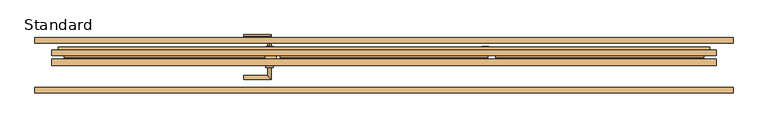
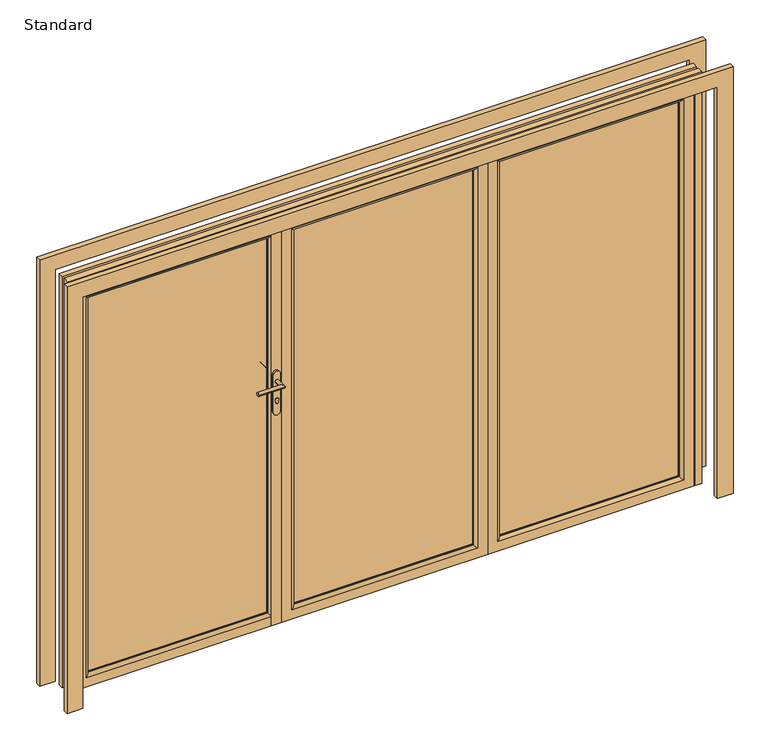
"""IFC4 building model written with IfcOpenShell, lengths in millimetres: door geometry, SMARTS_Visofold1000 : Standard."""

from ifc_helpers import new_model, si_unit, point, frame, frame_2d, origin, origin_with_axes, place, context, project, spatial, polyline, circle_curve, ellipse_curve, trimmed, segment, composite_curve, outline, extrude, faceted_brep, source, transform, mapped, element, save
from ifc_brep_helpers import plane_surface, cylinder_surface, advanced_brep


def standard_c6a34117(model_context):
    return source(origin(), model_context, "Body", "SolidModel", [
        extrude(outline(composite_curve([segment(polyline([(1228.0996413, 440.6666667), (1040.0996413, 440.6666667)]), True, "CONTINUOUS"), segment(trimmed(circle_curve(frame_2d((1040.0996413, 456.6666667)), 16.0), [point((1040.0996413, 440.6666667))], [point((1040.0996413, 472.6666667))], False, "CARTESIAN"), True, "CONTINUOUS"), segment(polyline([(1040.0996413, 472.6666667), (1228.0996413, 472.6666667)]), True, "CONTINUOUS"), segment(trimmed(circle_curve(frame_2d((1228.0996413, 456.6666667)), 16.0), [point((1228.0996413, 472.6666667))], [point((1228.0996413, 440.6666667))], False, "CARTESIAN"), True, "CONTINUOUS")], self_intersect=False)), frame((0.0, 75.0, 0.0), z_axis=(0.0, 1.0, 0.0), x_axis=(0.0, 0.0, 1.0)), (0.0, 0.0, 1.0), 10.0),
        extrude(outline(polyline([(45.0, 441.6666667), (1955.0, 441.6666667), (1955.0, -441.6666667), (45.0, -441.6666667), (45.0, 441.6666667)]), holes=[polyline([(1939.5, 426.1666667), (60.5, 426.1666667), (60.5, -426.1666667), (1939.5, -426.1666667), (1939.5, 426.1666667)])]), frame((0.0, 17.4, 0.0), z_axis=(0.0, 1.0, 0.0), x_axis=(0.0, 0.0, 1.0)), (0.0, 0.0, 1.0), 35.0),
        faceted_brep([(486.6666667, 74.4, 0.0), (486.6666667, 74.4, 2000.0), (486.6666667, 52.4, 2000.0), (486.6666667, 52.4, 0.0), (426.1666667, 52.4, 60.5), (426.1666667, 52.4, 1939.5), (426.1666667, 74.4, 1939.5), (426.1666667, 74.4, 60.5), (-486.6666667, 74.4, 2000.0), (-486.6666667, 52.4, 2000.0), (-426.1666667, 52.4, 1939.5), (-426.1666667, 74.4, 1939.5), (-486.6666667, 74.4, 0.0), (-486.6666667, 52.4, 0.0), (-426.1666667, 52.4, 60.5), (-426.1666667, 74.4, 60.5), (468.7975186, 34.8, 17.8691481), (468.7975186, 34.8, 1982.1308519), (-468.7975186, 34.8, 1982.1308519), (-468.7975186, 34.8, 17.8691481), (441.6666667, 34.8, 1955.0), (441.6666667, 34.8, 45.0), (-441.6666667, 34.8, 45.0), (-441.6666667, 34.8, 1955.0), (468.7975186, 52.4, 17.8691481), (468.7975186, 52.4, 1982.1308519), (441.6666667, 52.4, 1955.0), (441.6666667, 52.4, 45.0), (-468.7975186, 52.4, 1982.1308519), (-441.6666667, 52.4, 1955.0), (-468.7975186, 52.4, 17.8691481), (-441.6666667, 52.4, 45.0)], [[[0, 1, 2, 3]], [[4, 5, 6, 7]], [[1, 8, 9, 2]], [[5, 10, 11, 6]], [[8, 12, 13, 9]], [[10, 14, 15, 11]], [[12, 0, 3, 13]], [[1, 0, 12, 8], [7, 6, 11, 15]], [[14, 4, 7, 15]], [[16, 17, 18, 19], [20, 21, 22, 23]], [[24, 25, 17, 16]], [[21, 20, 26, 27]], [[25, 28, 18, 17]], [[20, 23, 29, 26]], [[28, 30, 19, 18]], [[23, 22, 31, 29]], [[30, 24, 16, 19]], [[3, 2, 9, 13], [25, 24, 30, 28]], [[27, 26, 29, 31], [5, 4, 14, 10]], [[22, 21, 27, 31]]]),
        advanced_brep(
        [(426.1666667, 13.3, 60.5), (426.1666667, 13.3, 1939.5), (426.1666667, 17.4, 1939.5), (426.1666667, 17.4, 60.5), (486.6666667, 17.4, 0.0), (486.6666667, 17.4, 2000.0), (486.6666667, 0.0, 2000.0), (486.6666667, 0.0, 0.0), (-426.1666667, 13.3, 1939.5), (-426.1666667, 17.4, 1939.5), (-486.6666667, 17.4, 2000.0), (-486.6666667, 0.0, 2000.0), (-426.1666667, 13.3, 60.5), (-426.1666667, 17.4, 60.5), (-486.6666667, 17.4, 0.0), (-486.6666667, 0.0, 0.0), (439.4666667, 0.0, 1952.8), (439.4666667, 0.0, 47.2), (-439.4666667, 0.0, 47.2), (-439.4666667, 0.0, 1952.8), (468.7975186, 34.8, 17.8691481), (468.7975186, 34.8, 1982.1308519), (468.7975186, 17.4, 1982.1308519), (468.7975186, 17.4, 17.8691481), (-468.7975186, 34.8, 1982.1308519), (-468.7975186, 17.4, 1982.1308519), (-468.7975186, 34.8, 17.8691481), (-468.7975186, 17.4, 17.8691481), (441.6666667, 17.4, 45.0), (441.6666667, 17.4, 1955.0), (441.6666667, 34.8, 1955.0), (441.6666667, 34.8, 45.0), (-441.6666667, 17.4, 1955.0), (-441.6666667, 34.8, 1955.0), (-441.6666667, 17.4, 45.0), (-441.6666667, 34.8, 45.0)],
        [
            (0, 1),
            (1, 2),
            (2, 3),
            (3, 0),
            (4, 5),
            (5, 6),
            (6, 7),
            (7, 4),
            (1, 8),
            (8, 9),
            (9, 2),
            (5, 10),
            (10, 11),
            (11, 6),
            (8, 12),
            (12, 13),
            (13, 9),
            (10, 14),
            (14, 15),
            (15, 11),
            (12, 0),
            (3, 13),
            (15, 7),
            (16, 17),
            (17, 18),
            (18, 19),
            (19, 16),
            (14, 4),
            (16, 1, ellipse_curve(frame((439.4666667, 13.3, 1952.8), z_axis=(0.707106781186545, 0.0, -0.7071067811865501), x_axis=(-0.7071067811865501, 0.0, -0.7071067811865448)), 18.8090404, 13.3)),
            (0, 17, ellipse_curve(frame((439.4666667, 13.3, 47.2), z_axis=(0.70710678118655, 0.0, 0.7071067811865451), x_axis=(0.7071067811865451, 0.0, -0.7071067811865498)), 18.8090404, 13.3)),
            (19, 8, ellipse_curve(frame((-439.4666667, 13.3, 1952.8), z_axis=(0.7071067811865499, 0.0, 0.707106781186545), x_axis=(0.7071067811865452, 0.0, -0.7071067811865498)), 18.8090404, 13.3)),
            (18, 12, ellipse_curve(frame((-439.4666667, 13.3, 47.2), z_axis=(-0.7071067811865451, 0.0, 0.7071067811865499), x_axis=(0.7071067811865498, 0.0, 0.7071067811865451)), 18.8090404, 13.3)),
            (20, 21),
            (21, 22),
            (22, 23),
            (23, 20),
            (21, 24),
            (24, 25),
            (25, 22),
            (24, 26),
            (26, 27),
            (27, 25),
            (27, 23),
            (26, 20),
            (28, 29),
            (29, 30),
            (30, 31),
            (31, 28),
            (29, 32),
            (32, 33),
            (33, 30),
            (32, 34),
            (34, 35),
            (35, 33),
            (34, 28),
            (31, 35),
        ],
        [
            plane_surface(frame((426.1666667, 17.4, 60.5), z_axis=(-1.0, 0.0, 0.0), x_axis=(0.0, 0.0, 1.0))),
            plane_surface(frame((486.6666667, 0.0, 0.0), z_axis=(1.0, 0.0, 0.0), x_axis=(0.0, 0.0, 1.0))),
            plane_surface(frame((426.1666667, 17.4, 1939.5), z_axis=(0.0, 0.0, -1.0), x_axis=(-1.0, 0.0, 0.0))),
            plane_surface(frame((486.6666667, 0.0, 2000.0), z_axis=(0.0, 0.0, 1.0), x_axis=(-1.0, 0.0, 0.0))),
            plane_surface(frame((-426.1666667, 17.4, 1939.5), z_axis=(1.0, 0.0, 0.0), x_axis=(0.0, 0.0, -1.0))),
            plane_surface(frame((-486.6666667, 0.0, 2000.0), z_axis=(-1.0, 0.0, 0.0), x_axis=(0.0, 0.0, -1.0))),
            plane_surface(frame((-426.1666667, 17.4, 60.5), z_axis=(0.0, 0.0, 1.0), x_axis=(1.0, 0.0, 0.0))),
            plane_surface(frame((-439.4666667, 0.0, 47.2), z_axis=(0.0, -1.0, 0.0), x_axis=(1.0, 0.0, 0.0))),
            plane_surface(frame((-486.6666667, 0.0, 0.0), z_axis=(0.0, 0.0, -1.0), x_axis=(1.0, 0.0, 0.0))),
            cylinder_surface(frame((439.4666667, 13.3, 0.0), z_axis=(0.0, 0.0, -1.0), x_axis=(0.0, 1.0, 0.0)), 13.3),
            cylinder_surface(frame((486.6666667, 13.3, 1952.8), z_axis=(1.0, 0.0, 0.0), x_axis=(0.0, 1.0, 0.0)), 13.3),
            cylinder_surface(frame((-439.4666667, 13.3, 2000.0), z_axis=(0.0, 0.0, 1.0), x_axis=(0.0, 1.0, 0.0)), 13.3),
            cylinder_surface(frame((-486.6666667, 13.3, 47.2), z_axis=(-1.0, 0.0, 0.0), x_axis=(0.0, 1.0, 0.0)), 13.3),
            plane_surface(frame((468.7975186, 17.4, 17.8691481), z_axis=(1.0, 0.0, 0.0), x_axis=(0.0, 0.0, 1.0))),
            plane_surface(frame((468.7975186, 17.4, 1982.1308519), z_axis=(0.0, 0.0, 1.0), x_axis=(-1.0, 0.0, 0.0))),
            plane_surface(frame((-468.7975186, 17.4, 1982.1308519), z_axis=(-1.0, 0.0, 0.0), x_axis=(0.0, 0.0, -1.0))),
            plane_surface(frame((-486.6666667, 17.4, 0.0), z_axis=(0.0, 1.0, 0.0), x_axis=(1.0, 0.0, 0.0))),
            plane_surface(frame((-468.7975186, 17.4, 17.8691481), z_axis=(0.0, 0.0, -1.0), x_axis=(1.0, 0.0, 0.0))),
            plane_surface(frame((441.6666667, 34.8, 45.0), z_axis=(-1.0, 0.0, 0.0), x_axis=(0.0, 0.0, 1.0))),
            plane_surface(frame((441.6666667, 34.8, 1955.0), z_axis=(0.0, 0.0, -1.0), x_axis=(-1.0, 0.0, 0.0))),
            plane_surface(frame((-441.6666667, 34.8, 1955.0), z_axis=(1.0, 0.0, 0.0), x_axis=(0.0, 0.0, -1.0))),
            plane_surface(frame((-441.6666667, 34.8, 45.0), z_axis=(0.0, 0.0, 1.0), x_axis=(1.0, 0.0, 0.0))),
            plane_surface(frame((-441.6666667, 17.4, 45.0), z_axis=(0.0, 1.0, 0.0), x_axis=(1.0, 0.0, 0.0))),
            plane_surface(frame((-468.7975186, 34.8, 17.8691481), z_axis=(0.0, 1.0, 0.0), x_axis=(1.0, 0.0, 0.0))),
        ],
        [
            (0, [[1, 2, 3, 4]]),
            (1, [[5, 6, 7, 8]]),
            (2, [[9, 10, 11, -2]]),
            (3, [[12, 13, 14, -6]]),
            (4, [[15, 16, 17, -10]]),
            (5, [[18, 19, 20, -13]]),
            (6, [[21, -4, 22, -16]]),
            (7, [[-7, -14, -20, 23], [24, 25, 26, 27]]),
            (8, [[28, -8, -23, -19]]),
            (9, [[-24, 29, -1, 30]]),
            (10, [[-27, 31, -9, -29]]),
            (11, [[-26, 32, -15, -31]]),
            (12, [[-25, -30, -21, -32]]),
            (13, [[33, 34, 35, 36]]),
            (14, [[37, 38, 39, -34]]),
            (15, [[40, 41, 42, -38]]),
            (16, [[-5, -28, -18, -12], [-35, -39, -42, 43]]),
            (17, [[44, -36, -43, -41]]),
            (18, [[45, 46, 47, 48]]),
            (19, [[49, 50, 51, -46]]),
            (20, [[52, 53, 54, -50]]),
            (21, [[55, -48, 56, -53]]),
            (22, [[-45, -55, -52, -49], [-3, -11, -17, -22]]),
            (23, [[-33, -44, -40, -37], [-47, -51, -54, -56]]),
        ],
    ),
        extrude(outline(polyline([(426.1666667, 50.1484783), (426.1666667, 21.4), (-426.1666667, 21.4), (-426.1666667, 50.1484783), (426.1666667, 50.1484783)])), frame((0.0, 0.0, 60.5), z_axis=(0.0, 0.0, 1.0), x_axis=(1.0, 0.0, 0.0)), (0.0, 0.0, 1.0), 1879.0),
        extrude(outline(polyline([(45.0, 531.6666667), (45.0, 1415.0), (1955.0, 1415.0), (1955.0, 531.6666667), (45.0, 531.6666667)]), holes=[polyline([(1939.5, 547.1666667), (1939.5, 1399.5), (60.5, 1399.5), (60.5, 547.1666667), (1939.5, 547.1666667)])]), frame((0.0, 17.4, 0.0), z_axis=(0.0, 1.0, 0.0), x_axis=(0.0, 0.0, 1.0)), (0.0, 0.0, 1.0), 35.0),
        faceted_brep([(486.6666667, 74.4, 0.0), (486.6666667, 52.4, 0.0), (486.6666667, 52.4, 2000.0), (486.6666667, 74.4, 2000.0), (547.1666667, 52.4, 60.5), (547.1666667, 74.4, 60.5), (547.1666667, 74.4, 1939.5), (547.1666667, 52.4, 1939.5), (1460.0, 74.4, 0.0), (1460.0, 52.4, 0.0), (1460.0, 52.4, 2000.0), (1460.0, 74.4, 2000.0), (1399.5, 74.4, 1939.5), (1399.5, 52.4, 1939.5), (1399.5, 74.4, 60.5), (1399.5, 52.4, 60.5), (504.5358147, 34.8, 17.8691481), (1442.1308519, 34.8, 17.8691481), (1442.1308519, 34.8, 1982.1308519), (504.5358147, 34.8, 1982.1308519), (531.6666667, 34.8, 1955.0), (1415.0, 34.8, 1955.0), (1415.0, 34.8, 45.0), (531.6666667, 34.8, 45.0), (504.5358147, 52.4, 17.8691481), (504.5358147, 52.4, 1982.1308519), (531.6666667, 52.4, 45.0), (531.6666667, 52.4, 1955.0), (1442.1308519, 52.4, 1982.1308519), (1415.0, 52.4, 1955.0), (1442.1308519, 52.4, 17.8691481), (1415.0, 52.4, 45.0)], [[[0, 1, 2, 3]], [[4, 5, 6, 7]], [[8, 9, 1, 0]], [[3, 2, 10, 11]], [[7, 6, 12, 13]], [[11, 10, 9, 8]], [[13, 12, 14, 15]], [[3, 11, 8, 0], [5, 14, 12, 6]], [[15, 14, 5, 4]], [[16, 17, 18, 19], [20, 21, 22, 23]], [[24, 16, 19, 25]], [[23, 26, 27, 20]], [[25, 19, 18, 28]], [[20, 27, 29, 21]], [[28, 18, 17, 30]], [[21, 29, 31, 22]], [[30, 17, 16, 24]], [[1, 9, 10, 2], [25, 28, 30, 24]], [[26, 31, 29, 27], [7, 13, 15, 4]], [[22, 31, 26, 23]]]),
        advanced_brep(
        [(547.1666667, 13.3, 60.5), (547.1666667, 17.4, 60.5), (547.1666667, 17.4, 1939.5), (547.1666667, 13.3, 1939.5), (486.6666667, 17.4, 0.0), (486.6666667, 0.0, 0.0), (486.6666667, 0.0, 2000.0), (486.6666667, 17.4, 2000.0), (1399.5, 17.4, 1939.5), (1399.5, 13.3, 1939.5), (1460.0, 0.0, 2000.0), (1460.0, 17.4, 2000.0), (1399.5, 17.4, 60.5), (1399.5, 13.3, 60.5), (1460.0, 0.0, 0.0), (1460.0, 17.4, 0.0), (533.8666667, 0.0, 1952.8), (1412.8, 0.0, 1952.8), (1412.8, 0.0, 47.2), (533.8666667, 0.0, 47.2), (504.5358147, 34.8, 17.8691481), (504.5358147, 17.4, 17.8691481), (504.5358147, 17.4, 1982.1308519), (504.5358147, 34.8, 1982.1308519), (1442.1308519, 17.4, 1982.1308519), (1442.1308519, 34.8, 1982.1308519), (1442.1308519, 17.4, 17.8691481), (1442.1308519, 34.8, 17.8691481), (531.6666667, 17.4, 45.0), (531.6666667, 34.8, 45.0), (531.6666667, 34.8, 1955.0), (531.6666667, 17.4, 1955.0), (1415.0, 34.8, 1955.0), (1415.0, 17.4, 1955.0), (1415.0, 34.8, 45.0), (1415.0, 17.4, 45.0)],
        [
            (0, 1),
            (1, 2),
            (2, 3),
            (3, 0),
            (4, 5),
            (5, 6),
            (6, 7),
            (7, 4),
            (2, 8),
            (8, 9),
            (9, 3),
            (6, 10),
            (10, 11),
            (11, 7),
            (8, 12),
            (12, 13),
            (13, 9),
            (10, 14),
            (14, 15),
            (15, 11),
            (12, 1),
            (0, 13),
            (5, 14),
            (16, 17),
            (17, 18),
            (18, 19),
            (19, 16),
            (4, 15),
            (19, 0, ellipse_curve(frame((533.8666667, 13.3, 47.2), z_axis=(-0.70710678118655, 0.0, 0.7071067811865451), x_axis=(-0.7071067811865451, 0.0, -0.7071067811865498)), 18.8090404, 13.3)),
            (3, 16, ellipse_curve(frame((533.8666667, 13.3, 1952.8), z_axis=(-0.707106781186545, 0.0, -0.7071067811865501), x_axis=(0.7071067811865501, 0.0, -0.7071067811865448)), 18.8090404, 13.3)),
            (9, 17, ellipse_curve(frame((1412.8, 13.3, 1952.8), z_axis=(-0.7071067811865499, 0.0, 0.707106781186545), x_axis=(-0.7071067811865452, 0.0, -0.7071067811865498)), 18.8090404, 13.3)),
            (13, 18, ellipse_curve(frame((1412.8, 13.3, 47.2), z_axis=(0.7071067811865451, 0.0, 0.7071067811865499), x_axis=(-0.7071067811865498, 0.0, 0.7071067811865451)), 18.8090404, 13.3)),
            (20, 21),
            (21, 22),
            (22, 23),
            (23, 20),
            (22, 24),
            (24, 25),
            (25, 23),
            (24, 26),
            (26, 27),
            (27, 25),
            (21, 26),
            (20, 27),
            (28, 29),
            (29, 30),
            (30, 31),
            (31, 28),
            (30, 32),
            (32, 33),
            (33, 31),
            (32, 34),
            (34, 35),
            (35, 33),
            (34, 29),
            (28, 35),
        ],
        [
            plane_surface(frame((547.1666667, 17.4, 60.5), z_axis=(1.0, 0.0, 0.0), x_axis=(0.0, 0.0, 1.0))),
            plane_surface(frame((486.6666667, 0.0, 0.0), z_axis=(-1.0, 0.0, 0.0), x_axis=(0.0, 0.0, 1.0))),
            plane_surface(frame((547.1666667, 17.4, 1939.5), z_axis=(0.0, 0.0, -1.0), x_axis=(1.0, 0.0, 0.0))),
            plane_surface(frame((486.6666667, 0.0, 2000.0), z_axis=(0.0, 0.0, 1.0), x_axis=(1.0, 0.0, 0.0))),
            plane_surface(frame((1399.5, 17.4, 1939.5), z_axis=(-1.0, 0.0, 0.0), x_axis=(0.0, 0.0, -1.0))),
            plane_surface(frame((1460.0, 0.0, 2000.0), z_axis=(1.0, 0.0, 0.0), x_axis=(0.0, 0.0, -1.0))),
            plane_surface(frame((1399.5, 17.4, 60.5), z_axis=(0.0, 0.0, 1.0), x_axis=(-1.0, 0.0, 0.0))),
            plane_surface(frame((1412.8, 0.0, 47.2), z_axis=(0.0, -1.0, 0.0), x_axis=(-1.0, 0.0, 0.0))),
            plane_surface(frame((1460.0, 0.0, 0.0), z_axis=(0.0, 0.0, -1.0), x_axis=(-1.0, 0.0, 0.0))),
            cylinder_surface(frame((533.8666667, 13.3, 0.0), z_axis=(0.0, 0.0, -1.0), x_axis=(0.0, 1.0, 0.0)), 13.3),
            cylinder_surface(frame((486.6666667, 13.3, 1952.8), z_axis=(-1.0, 0.0, 0.0), x_axis=(0.0, 1.0, 0.0)), 13.3),
            cylinder_surface(frame((1412.8, 13.3, 2000.0), z_axis=(0.0, 0.0, 1.0), x_axis=(0.0, 1.0, 0.0)), 13.3),
            cylinder_surface(frame((1460.0, 13.3, 47.2), z_axis=(1.0, 0.0, 0.0), x_axis=(0.0, 1.0, 0.0)), 13.3),
            plane_surface(frame((504.5358147, 17.4, 17.8691481), z_axis=(-1.0, 0.0, 0.0), x_axis=(0.0, 0.0, 1.0))),
            plane_surface(frame((504.5358147, 17.4, 1982.1308519), z_axis=(0.0, 0.0, 1.0), x_axis=(1.0, 0.0, 0.0))),
            plane_surface(frame((1442.1308519, 17.4, 1982.1308519), z_axis=(1.0, 0.0, 0.0), x_axis=(0.0, 0.0, -1.0))),
            plane_surface(frame((1460.0, 17.4, 0.0), z_axis=(0.0, 1.0, 0.0), x_axis=(-1.0, 0.0, 0.0))),
            plane_surface(frame((1442.1308519, 17.4, 17.8691481), z_axis=(0.0, 0.0, -1.0), x_axis=(-1.0, 0.0, 0.0))),
            plane_surface(frame((531.6666667, 34.8, 45.0), z_axis=(1.0, 0.0, 0.0), x_axis=(0.0, 0.0, 1.0))),
            plane_surface(frame((531.6666667, 34.8, 1955.0), z_axis=(0.0, 0.0, -1.0), x_axis=(1.0, 0.0, 0.0))),
            plane_surface(frame((1415.0, 34.8, 1955.0), z_axis=(-1.0, 0.0, 0.0), x_axis=(0.0, 0.0, -1.0))),
            plane_surface(frame((1415.0, 34.8, 45.0), z_axis=(0.0, 0.0, 1.0), x_axis=(-1.0, 0.0, 0.0))),
            plane_surface(frame((1415.0, 17.4, 45.0), z_axis=(0.0, 1.0, 0.0), x_axis=(-1.0, 0.0, 0.0))),
            plane_surface(frame((1442.1308519, 34.8, 17.8691481), z_axis=(0.0, 1.0, 0.0), x_axis=(-1.0, 0.0, 0.0))),
        ],
        [
            (0, [[1, 2, 3, 4]]),
            (1, [[5, 6, 7, 8]]),
            (2, [[-3, 9, 10, 11]]),
            (3, [[-7, 12, 13, 14]]),
            (4, [[-10, 15, 16, 17]]),
            (5, [[-13, 18, 19, 20]]),
            (6, [[-16, 21, -1, 22]]),
            (7, [[23, -18, -12, -6], [24, 25, 26, 27]]),
            (8, [[-19, -23, -5, 28]]),
            (9, [[29, -4, 30, -27]]),
            (10, [[-30, -11, 31, -24]]),
            (11, [[-31, -17, 32, -25]]),
            (12, [[-32, -22, -29, -26]]),
            (13, [[33, 34, 35, 36]]),
            (14, [[-35, 37, 38, 39]]),
            (15, [[-38, 40, 41, 42]]),
            (16, [[-14, -20, -28, -8], [43, -40, -37, -34]]),
            (17, [[-41, -43, -33, 44]]),
            (18, [[45, 46, 47, 48]]),
            (19, [[-47, 49, 50, 51]]),
            (20, [[-50, 52, 53, 54]]),
            (21, [[-53, 55, -45, 56]]),
            (22, [[-51, -54, -56, -48], [-21, -15, -9, -2]]),
            (23, [[-39, -42, -44, -36], [-55, -52, -49, -46]]),
        ],
    ),
        extrude(outline(polyline([(547.1666667, 50.1484783), (1399.5, 50.1484783), (1399.5, 21.4), (547.1666667, 21.4), (547.1666667, 50.1484783)])), frame((0.0, 0.0, 60.5), z_axis=(0.0, 0.0, 1.0), x_axis=(1.0, 0.0, 0.0)), (0.0, 0.0, 1.0), 1879.0),
        extrude(outline(polyline([(-536.6666667, 0.0), (-536.6666667, 75.1750992), (-486.6666667, 75.1750992), (-486.6666667, 0.0), (-536.6666667, 0.0)])), origin_with_axes(), (0.0, 0.0, 1.0), 2000.0),
        advanced_brep(
        [(-516.6666667, 75.0, 1232.5996413), (-516.6666667, 75.0, 1215.5996413), (-516.6666667, 130.0, 1232.5996413), (-516.6666667, 130.0, 1215.5996413), (-631.6666667, 130.0, 1232.5996413), (-631.6666667, 130.0, 1215.5996413)],
        [
            (0, 1, circle_curve(frame((-516.6666667, 75.0, 1224.0996413), z_axis=(0.0, -1.0, 0.0), x_axis=(0.0, 0.0, -1.0)), 8.5)),
            (1, 0, circle_curve(frame((-516.6666667, 75.0, 1224.0996413), z_axis=(0.0, -1.0, 0.0), x_axis=(0.0, 0.0, -1.0)), 8.5)),
            (0, 2),
            (2, 3, ellipse_curve(frame((-516.6666667, 130.0, 1224.0996413), z_axis=(0.7071067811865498, -0.7071067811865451, 0.0), x_axis=(-0.707106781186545, -0.70710678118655, 0.0)), 12.0208153, 8.5)),
            (3, 1),
            (3, 2, ellipse_curve(frame((-516.6666667, 130.0, 1224.0996413), z_axis=(0.7071067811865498, -0.7071067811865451, 0.0), x_axis=(-0.707106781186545, -0.70710678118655, 0.0)), 12.0208153, 8.5)),
            (4, 5, circle_curve(frame((-631.6666667, 130.0, 1224.0996413), z_axis=(-1.0, 0.0, 0.0), x_axis=(0.0, 0.0, -1.0)), 8.5)),
            (5, 4, circle_curve(frame((-631.6666667, 130.0, 1224.0996413), z_axis=(-1.0, 0.0, 0.0), x_axis=(0.0, 0.0, -1.0)), 8.5)),
            (2, 4),
            (5, 3),
        ],
        [
            plane_surface(frame((-516.6666667, 75.0, 1224.0996413), z_axis=(0.0, -1.0, 0.0), x_axis=(0.0, 0.0, -1.0))),
            cylinder_surface(frame((-516.6666667, 75.0, 1224.0996413), z_axis=(0.0, -1.0, 0.0), x_axis=(0.0, 0.0, -1.0)), 8.5),
            plane_surface(frame((-631.6666667, 130.0, 1224.0996413), z_axis=(-1.0, 0.0, 0.0), x_axis=(0.0, 0.0, -1.0))),
            cylinder_surface(frame((-516.6666667, 130.0, 1224.0996413), z_axis=(1.0, 0.0, 0.0), x_axis=(0.0, 0.0, -1.0)), 8.5),
        ],
        [
            (0, [[1, 2]]),
            (1, [[3, 4, 5, -1]]),
            (1, [[-5, 6, -3, -2]]),
            (2, [[7, 8]]),
            (3, [[9, -8, 10, -4]]),
            (3, [[-10, -7, -9, -6]]),
        ],
    ),
        extrude(outline(composite_curve([segment(polyline([(1258.0996413, -532.6666667), (1070.0996413, -532.6666667)]), True, "CONTINUOUS"), segment(trimmed(circle_curve(frame_2d((1070.0996413, -516.6666667)), 16.0), [point((1070.0996413, -532.6666667))], [point((1070.0996413, -500.6666667))], False, "CARTESIAN"), True, "CONTINUOUS"), segment(polyline([(1070.0996413, -500.6666667), (1258.0996413, -500.6666667)]), True, "CONTINUOUS"), segment(trimmed(circle_curve(frame_2d((1258.0996413, -516.6666667)), 16.0), [point((1258.0996413, -500.6666667))], [point((1258.0996413, -532.6666667))], False, "CARTESIAN"), True, "CONTINUOUS")], self_intersect=False)), frame((0.0, 75.0, 0.0), z_axis=(0.0, 1.0, 0.0), x_axis=(0.0, 0.0, 1.0)), (0.0, 0.0, 1.0), 10.0),
        advanced_brep(
        [(-525.1666667, 0.0, 1224.0996413), (-508.1666667, 0.0, 1224.0996413), (-508.1666667, -63.5, 1224.0996413), (-525.1666667, -46.5, 1224.0996413), (-631.6666667, -46.5, 1224.0996413), (-631.6666667, -63.5, 1224.0996413)],
        [
            (0, 1, circle_curve(frame((-516.6666667, 0.0, 1224.0996413), z_axis=(0.0, 1.0, 0.0), x_axis=(1.0, 0.0, 0.0)), 8.5)),
            (1, 0, circle_curve(frame((-516.6666667, 0.0, 1224.0996413), z_axis=(0.0, 1.0, 0.0), x_axis=(1.0, 0.0, 0.0)), 8.5)),
            (1, 2),
            (2, 3, ellipse_curve(frame((-516.6666667, -55.0, 1224.0996413), z_axis=(0.7071067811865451, 0.7071067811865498, 0.0), x_axis=(-0.7071067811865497, 0.7071067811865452, 0.0)), 12.0208153, 8.5)),
            (3, 0),
            (3, 2, ellipse_curve(frame((-516.6666667, -55.0, 1224.0996413), z_axis=(0.7071067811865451, 0.7071067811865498, 0.0), x_axis=(-0.7071067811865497, 0.7071067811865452, 0.0)), 12.0208153, 8.5)),
            (4, 5, circle_curve(frame((-631.6666667, -55.0, 1224.0996413), z_axis=(-1.0, 0.0, 0.0), x_axis=(0.0, -1.0, 0.0)), 8.5)),
            (5, 4, circle_curve(frame((-631.6666667, -55.0, 1224.0996413), z_axis=(-1.0, 0.0, 0.0), x_axis=(0.0, -1.0, 0.0)), 8.5)),
            (2, 5),
            (4, 3),
        ],
        [
            plane_surface(frame((-516.6666667, 0.0, 1224.0996413), z_axis=(0.0, 1.0, 0.0), x_axis=(0.0, 0.0, -1.0))),
            cylinder_surface(frame((-516.6666667, 0.0, 1224.0996413), z_axis=(0.0, 1.0, 0.0), x_axis=(1.0, 0.0, 0.0)), 8.5),
            plane_surface(frame((-631.6666667, -55.0, 1224.0996413), z_axis=(-1.0, 0.0, 0.0), x_axis=(0.0, 0.0, -1.0))),
            cylinder_surface(frame((-516.6666667, -55.0, 1224.0996413), z_axis=(1.0, 0.0, 0.0), x_axis=(0.0, -1.0, 0.0)), 8.5),
        ],
        [
            (0, [[1, 2]]),
            (1, [[3, 4, 5, -2]]),
            (1, [[-5, 6, -3, -1]]),
            (2, [[7, 8]]),
            (3, [[9, -7, 10, -4]]),
            (3, [[-10, -8, -9, -6]]),
        ],
    ),
        extrude(outline(composite_curve([segment(polyline([(1258.0996413, -532.6666667), (1070.0996413, -532.6666667)]), True, "CONTINUOUS"), segment(trimmed(circle_curve(frame_2d((1070.0996413, -516.6666667)), 16.0), [point((1070.0996413, -532.6666667))], [point((1070.0996413, -500.6666667))], False, "CARTESIAN"), True, "CONTINUOUS"), segment(polyline([(1070.0996413, -500.6666667), (1258.0996413, -500.6666667)]), True, "CONTINUOUS"), segment(trimmed(circle_curve(frame_2d((1258.0996413, -516.6666667)), 16.0), [point((1258.0996413, -500.6666667))], [point((1258.0996413, -532.6666667))], False, "CARTESIAN"), True, "CONTINUOUS")], self_intersect=False)), frame((0.0, -10.0, 0.0), z_axis=(0.0, 1.0, 0.0), x_axis=(0.0, 0.0, 1.0)), (0.0, 0.0, 1.0), 10.0),
        extrude(outline(composite_curve([segment(polyline([(1125.1769586, -521.6560437), (1117.5996413, -521.6560437)]), True, "CONTINUOUS"), segment(trimmed(circle_curve(frame_2d((1117.5996413, -516.6560437)), 5.0), [point((1117.5996413, -521.6560437))], [point((1117.5996413, -511.6560437))], False, "CARTESIAN"), True, "CONTINUOUS"), segment(polyline([(1117.5996413, -511.6560437), (1125.27562, -511.6560437)]), True, "CONTINUOUS"), segment(trimmed(circle_curve(frame_2d((1132.0996413, -516.7238572)), 8.5), [point((1125.27562, -511.6560437))], [point((1125.1769586, -521.6560437))], False, "CARTESIAN"), True, "CONTINUOUS")], self_intersect=False)), frame((0.0, 85.0, 0.0), z_axis=(0.0, 1.0, 0.0), x_axis=(0.0, 0.0, 1.0)), (0.0, 0.0, 1.0), 2.0),
        extrude(outline(composite_curve([segment(polyline([(1125.1769586, -521.6560437), (1117.5996413, -521.6560437)]), True, "CONTINUOUS"), segment(trimmed(circle_curve(frame_2d((1117.5996413, -516.6560437)), 5.0), [point((1117.5996413, -521.6560437))], [point((1117.5996413, -511.6560437))], False, "CARTESIAN"), True, "CONTINUOUS"), segment(polyline([(1117.5996413, -511.6560437), (1125.27562, -511.6560437)]), True, "CONTINUOUS"), segment(trimmed(circle_curve(frame_2d((1132.0996413, -516.7238572)), 8.5), [point((1125.27562, -511.6560437))], [point((1125.1769586, -521.6560437))], False, "CARTESIAN"), True, "CONTINUOUS")], self_intersect=False)), frame((0.0, -12.0, 0.0), z_axis=(0.0, 1.0, 0.0), x_axis=(0.0, 0.0, 1.0)), (0.0, 0.0, 1.0), 2.0),
        extrude(outline(polyline([(45.0, -531.6666667), (1955.0, -531.6666667), (1955.0, -1415.0), (45.0, -1415.0), (45.0, -531.6666667)]), holes=[polyline([(1939.5, -547.1666667), (60.5, -547.1666667), (60.5, -1399.5), (1939.5, -1399.5), (1939.5, -547.1666667)])]), frame((0.0, 17.4, 0.0), z_axis=(0.0, 1.0, 0.0), x_axis=(0.0, 0.0, 1.0)), (0.0, 0.0, 1.0), 35.0),
        faceted_brep([(-486.6666667, 74.4, 0.0), (-486.6666667, 74.4, 2000.0), (-486.6666667, 52.4, 2000.0), (-486.6666667, 52.4, 0.0), (-547.1666667, 52.4, 60.5), (-547.1666667, 52.4, 1939.5), (-547.1666667, 74.4, 1939.5), (-547.1666667, 74.4, 60.5), (-1460.0, 74.4, 0.0), (-1460.0, 52.4, 0.0), (-1460.0, 74.4, 2000.0), (-1460.0, 52.4, 2000.0), (-1399.5, 52.4, 1939.5), (-1399.5, 74.4, 1939.5), (-1399.5, 52.4, 60.5), (-1399.5, 74.4, 60.5), (-504.5358147, 34.8, 17.8691481), (-504.5358147, 34.8, 1982.1308519), (-1442.1308519, 34.8, 1982.1308519), (-1442.1308519, 34.8, 17.8691481), (-531.6666667, 34.8, 1955.0), (-531.6666667, 34.8, 45.0), (-1415.0, 34.8, 45.0), (-1415.0, 34.8, 1955.0), (-504.5358147, 52.4, 17.8691481), (-504.5358147, 52.4, 1982.1308519), (-531.6666667, 52.4, 1955.0), (-531.6666667, 52.4, 45.0), (-1442.1308519, 52.4, 1982.1308519), (-1415.0, 52.4, 1955.0), (-1442.1308519, 52.4, 17.8691481), (-1415.0, 52.4, 45.0)], [[[0, 1, 2, 3]], [[4, 5, 6, 7]], [[8, 0, 3, 9]], [[1, 10, 11, 2]], [[5, 12, 13, 6]], [[10, 8, 9, 11]], [[12, 14, 15, 13]], [[1, 0, 8, 10], [7, 6, 13, 15]], [[14, 4, 7, 15]], [[16, 17, 18, 19], [20, 21, 22, 23]], [[24, 25, 17, 16]], [[21, 20, 26, 27]], [[25, 28, 18, 17]], [[20, 23, 29, 26]], [[28, 30, 19, 18]], [[23, 22, 31, 29]], [[30, 24, 16, 19]], [[3, 2, 11, 9], [25, 24, 30, 28]], [[27, 26, 29, 31], [5, 4, 14, 12]], [[22, 21, 27, 31]]]),
        advanced_brep(
        [(-547.1666667, 13.3, 60.5), (-547.1666667, 13.3, 1939.5), (-547.1666667, 17.4, 1939.5), (-547.1666667, 17.4, 60.5), (-486.6666667, 17.4, 0.0), (-486.6666667, 17.4, 2000.0), (-486.6666667, 0.0, 2000.0), (-486.6666667, 0.0, 0.0), (-1399.5, 13.3, 1939.5), (-1399.5, 17.4, 1939.5), (-1460.0, 17.4, 2000.0), (-1460.0, 0.0, 2000.0), (-1399.5, 13.3, 60.5), (-1399.5, 17.4, 60.5), (-1460.0, 17.4, 0.0), (-1460.0, 0.0, 0.0), (-533.8666667, 0.0, 1952.8), (-533.8666667, 0.0, 47.2), (-1412.8, 0.0, 47.2), (-1412.8, 0.0, 1952.8), (-504.5358147, 34.8, 17.8691481), (-504.5358147, 34.8, 1982.1308519), (-504.5358147, 17.4, 1982.1308519), (-504.5358147, 17.4, 17.8691481), (-1442.1308519, 34.8, 1982.1308519), (-1442.1308519, 17.4, 1982.1308519), (-1442.1308519, 34.8, 17.8691481), (-1442.1308519, 17.4, 17.8691481), (-531.6666667, 17.4, 45.0), (-531.6666667, 17.4, 1955.0), (-531.6666667, 34.8, 1955.0), (-531.6666667, 34.8, 45.0), (-1415.0, 17.4, 1955.0), (-1415.0, 34.8, 1955.0), (-1415.0, 17.4, 45.0), (-1415.0, 34.8, 45.0)],
        [
            (0, 1),
            (1, 2),
            (2, 3),
            (3, 0),
            (4, 5),
            (5, 6),
            (6, 7),
            (7, 4),
            (1, 8),
            (8, 9),
            (9, 2),
            (5, 10),
            (10, 11),
            (11, 6),
            (8, 12),
            (12, 13),
            (13, 9),
            (10, 14),
            (14, 15),
            (15, 11),
            (12, 0),
            (3, 13),
            (15, 7),
            (16, 17),
            (17, 18),
            (18, 19),
            (19, 16),
            (14, 4),
            (16, 1, ellipse_curve(frame((-533.8666667, 13.3, 1952.8), z_axis=(0.707106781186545, 0.0, -0.7071067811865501), x_axis=(-0.7071067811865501, 0.0, -0.7071067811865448)), 18.8090404, 13.3)),
            (0, 17, ellipse_curve(frame((-533.8666667, 13.3, 47.2), z_axis=(0.70710678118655, 0.0, 0.7071067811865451), x_axis=(0.7071067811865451, 0.0, -0.7071067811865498)), 18.8090404, 13.3)),
            (19, 8, ellipse_curve(frame((-1412.8, 13.3, 1952.8), z_axis=(0.7071067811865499, 0.0, 0.707106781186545), x_axis=(0.7071067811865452, 0.0, -0.7071067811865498)), 18.8090404, 13.3)),
            (18, 12, ellipse_curve(frame((-1412.8, 13.3, 47.2), z_axis=(-0.7071067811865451, 0.0, 0.7071067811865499), x_axis=(0.7071067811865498, 0.0, 0.7071067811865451)), 18.8090404, 13.3)),
            (20, 21),
            (21, 22),
            (22, 23),
            (23, 20),
            (21, 24),
            (24, 25),
            (25, 22),
            (24, 26),
            (26, 27),
            (27, 25),
            (27, 23),
            (26, 20),
            (28, 29),
            (29, 30),
            (30, 31),
            (31, 28),
            (29, 32),
            (32, 33),
            (33, 30),
            (32, 34),
            (34, 35),
            (35, 33),
            (34, 28),
            (31, 35),
        ],
        [
            plane_surface(frame((-547.1666667, 17.4, 60.5), z_axis=(-1.0, 0.0, 0.0), x_axis=(0.0, 0.0, 1.0))),
            plane_surface(frame((-486.6666667, 0.0, 0.0), z_axis=(1.0, 0.0, 0.0), x_axis=(0.0, 0.0, 1.0))),
            plane_surface(frame((-547.1666667, 17.4, 1939.5), z_axis=(0.0, 0.0, -1.0), x_axis=(-1.0, 0.0, 0.0))),
            plane_surface(frame((-486.6666667, 0.0, 2000.0), z_axis=(0.0, 0.0, 1.0), x_axis=(-1.0, 0.0, 0.0))),
            plane_surface(frame((-1399.5, 17.4, 1939.5), z_axis=(1.0, 0.0, 0.0), x_axis=(0.0, 0.0, -1.0))),
            plane_surface(frame((-1460.0, 0.0, 2000.0), z_axis=(-1.0, 0.0, 0.0), x_axis=(0.0, 0.0, -1.0))),
            plane_surface(frame((-1399.5, 17.4, 60.5), z_axis=(0.0, 0.0, 1.0), x_axis=(1.0, 0.0, 0.0))),
            plane_surface(frame((-1412.8, 0.0, 47.2), z_axis=(0.0, -1.0, 0.0), x_axis=(1.0, 0.0, 0.0))),
            plane_surface(frame((-1460.0, 0.0, 0.0), z_axis=(0.0, 0.0, -1.0), x_axis=(1.0, 0.0, 0.0))),
            cylinder_surface(frame((-533.8666667, 13.3, 0.0), z_axis=(0.0, 0.0, -1.0), x_axis=(0.0, 1.0, 0.0)), 13.3),
            cylinder_surface(frame((-486.6666667, 13.3, 1952.8), z_axis=(1.0, 0.0, 0.0), x_axis=(0.0, 1.0, 0.0)), 13.3),
            cylinder_surface(frame((-1412.8, 13.3, 2000.0), z_axis=(0.0, 0.0, 1.0), x_axis=(0.0, 1.0, 0.0)), 13.3),
            cylinder_surface(frame((-1460.0, 13.3, 47.2), z_axis=(-1.0, 0.0, 0.0), x_axis=(0.0, 1.0, 0.0)), 13.3),
            plane_surface(frame((-504.5358147, 17.4, 17.8691481), z_axis=(1.0, 0.0, 0.0), x_axis=(0.0, 0.0, 1.0))),
            plane_surface(frame((-504.5358147, 17.4, 1982.1308519), z_axis=(0.0, 0.0, 1.0), x_axis=(-1.0, 0.0, 0.0))),
            plane_surface(frame((-1442.1308519, 17.4, 1982.1308519), z_axis=(-1.0, 0.0, 0.0), x_axis=(0.0, 0.0, -1.0))),
            plane_surface(frame((-1460.0, 17.4, 0.0), z_axis=(0.0, 1.0, 0.0), x_axis=(1.0, 0.0, 0.0))),
            plane_surface(frame((-1442.1308519, 17.4, 17.8691481), z_axis=(0.0, 0.0, -1.0), x_axis=(1.0, 0.0, 0.0))),
            plane_surface(frame((-531.6666667, 34.8, 45.0), z_axis=(-1.0, 0.0, 0.0), x_axis=(0.0, 0.0, 1.0))),
            plane_surface(frame((-531.6666667, 34.8, 1955.0), z_axis=(0.0, 0.0, -1.0), x_axis=(-1.0, 0.0, 0.0))),
            plane_surface(frame((-1415.0, 34.8, 1955.0), z_axis=(1.0, 0.0, 0.0), x_axis=(0.0, 0.0, -1.0))),
            plane_surface(frame((-1415.0, 34.8, 45.0), z_axis=(0.0, 0.0, 1.0), x_axis=(1.0, 0.0, 0.0))),
            plane_surface(frame((-1415.0, 17.4, 45.0), z_axis=(0.0, 1.0, 0.0), x_axis=(1.0, 0.0, 0.0))),
            plane_surface(frame((-1442.1308519, 34.8, 17.8691481), z_axis=(0.0, 1.0, 0.0), x_axis=(1.0, 0.0, 0.0))),
        ],
        [
            (0, [[1, 2, 3, 4]]),
            (1, [[5, 6, 7, 8]]),
            (2, [[9, 10, 11, -2]]),
            (3, [[12, 13, 14, -6]]),
            (4, [[15, 16, 17, -10]]),
            (5, [[18, 19, 20, -13]]),
            (6, [[21, -4, 22, -16]]),
            (7, [[-7, -14, -20, 23], [24, 25, 26, 27]]),
            (8, [[28, -8, -23, -19]]),
            (9, [[-24, 29, -1, 30]]),
            (10, [[-27, 31, -9, -29]]),
            (11, [[-26, 32, -15, -31]]),
            (12, [[-25, -30, -21, -32]]),
            (13, [[33, 34, 35, 36]]),
            (14, [[37, 38, 39, -34]]),
            (15, [[40, 41, 42, -38]]),
            (16, [[-5, -28, -18, -12], [-35, -39, -42, 43]]),
            (17, [[44, -36, -43, -41]]),
            (18, [[45, 46, 47, 48]]),
            (19, [[49, 50, 51, -46]]),
            (20, [[52, 53, 54, -50]]),
            (21, [[55, -48, 56, -53]]),
            (22, [[-45, -55, -52, -49], [-3, -11, -17, -22]]),
            (23, [[-33, -44, -40, -37], [-47, -51, -54, -56]]),
        ],
    ),
        extrude(outline(polyline([(-547.1666667, 50.1484783), (-547.1666667, 21.4), (-1399.5, 21.4), (-1399.5, 50.1484783), (-547.1666667, 50.1484783)])), frame((0.0, 0.0, 60.5), z_axis=(0.0, 0.0, 1.0), x_axis=(1.0, 0.0, 0.0)), (0.0, 0.0, 1.0), 1879.0),
        extrude(outline(polyline([(2058.6516063, -1500.0), (2058.6516063, 1500.0), (0.0, 1500.0), (0.0, 1575.0), (2133.6516063, 1575.0), (2133.6516063, -1575.0), (0.0, -1575.0), (0.0, -1500.0), (2058.6516063, -1500.0)])), frame((0.0, 100.0, 0.0), z_axis=(0.0, 1.0, 0.0), x_axis=(0.0, 0.0, 1.0)), (0.0, 0.0, 1.0), 25.0),
        extrude(outline(polyline([(2133.6516063, -1575.0), (0.0, -1575.0), (0.0, -1500.0), (2058.6516063, -1500.0), (2058.6516063, 1500.0), (0.0, 1500.0), (0.0, 1575.0), (2133.6516063, 1575.0), (2133.6516063, -1575.0)])), frame((0.0, -125.0, 0.0), z_axis=(0.0, 1.0, 0.0), x_axis=(0.0, 0.0, 1.0)), (0.0, 0.0, 1.0), 25.0),
        extrude(outline(polyline([(0.0, 1468.8), (0.0, 1500.0), (2058.6516063, 1500.0), (2058.6516063, -1500.0), (0.0, -1500.0), (0.0, -1468.8), (2027.4516063, -1468.8), (2027.4516063, 1468.8), (0.0, 1468.8)])), frame((0.0, 0.0, 0.0), z_axis=(0.0, 1.0, 0.0), x_axis=(0.0, 0.0, 1.0)), (0.0, 0.0, 1.0), 29.65),
        faceted_brep([(1500.0, 44.85, 0.0), (1468.8, 44.85, 0.0), (1468.8, 77.4, 0.0), (1448.3, 77.4, 0.0), (1448.3, 81.9, 0.0), (1470.6, 81.9, 0.0), (1470.6, 70.0, 0.0), (1500.0, 70.0, 0.0), (1500.0, 44.85, 2058.6516063), (-1500.0, 44.85, 2058.6516063), (-1500.0, 44.85, 0.0), (-1468.8, 44.85, 0.0), (-1468.8, 44.85, 2027.4516063), (1468.8, 44.85, 2027.4516063), (1468.8, 77.4, 2027.4516063), (-1468.8, 77.4, 2027.4516063), (-1468.8, 77.4, 0.0), (-1448.3, 77.4, 0.0), (-1448.3, 77.4, 2006.9516063), (1448.3, 77.4, 2006.9516063), (1448.3, 81.9, 2006.9516063), (-1448.3, 81.9, 2006.9516063), (-1448.3, 81.9, 0.0), (-1470.6, 81.9, 0.0), (-1470.6, 81.9, 2029.2516063), (1470.6, 81.9, 2029.2516063), (1470.6, 70.0, 2029.2516063), (-1470.6, 70.0, 2029.2516063), (-1470.6, 70.0, 0.0), (-1500.0, 70.0, 0.0), (-1500.0, 70.0, 2058.6516063), (1500.0, 70.0, 2058.6516063)], [[[0, 1, 2, 3, 4, 5, 6, 7]], [[1, 0, 8, 9, 10, 11, 12, 13]], [[2, 1, 13, 14]], [[3, 2, 14, 15, 16, 17, 18, 19]], [[4, 3, 19, 20]], [[5, 4, 20, 21, 22, 23, 24, 25]], [[6, 5, 25, 26]], [[7, 6, 26, 27, 28, 29, 30, 31]], [[0, 7, 31, 8]], [[10, 29, 28, 23, 22, 17, 16, 11]], [[9, 30, 29, 10]], [[27, 24, 23, 28]], [[21, 18, 17, 22]], [[15, 12, 11, 16]], [[8, 31, 30, 9]], [[14, 13, 12, 15]], [[26, 25, 24, 27]], [[20, 19, 18, 21]]]),
    ])


if __name__ == "__main__":
    model = new_model("IFC4")
    model_context = context("Model", 3, world=origin())
    ifc_project = project(units=[si_unit("LENGTHUNIT", "METRE", prefix="MILLI")], contexts=[model_context])
    site = spatial("IfcSite", under=ifc_project)
    building = spatial("IfcBuilding", under=site)
    placement = place(None, origin())
    standard_shape = standard_c6a34117(model_context)
    element("IfcDoor", 1, ObjectType="SMARTS_Visofold1000 : Standard", at=placement, inside=building, context=model_context, shape_type="MappedRepresentation", body=[
        mapped(standard_shape, transform((0.0, 0.0, 0.0), x_axis=(1.0, 0.0, 0.0), y_axis=(0.0, 1.0, 0.0), z_axis=(0.0, 0.0, 1.0))),
    ])
    save(model, "model.ifc")
